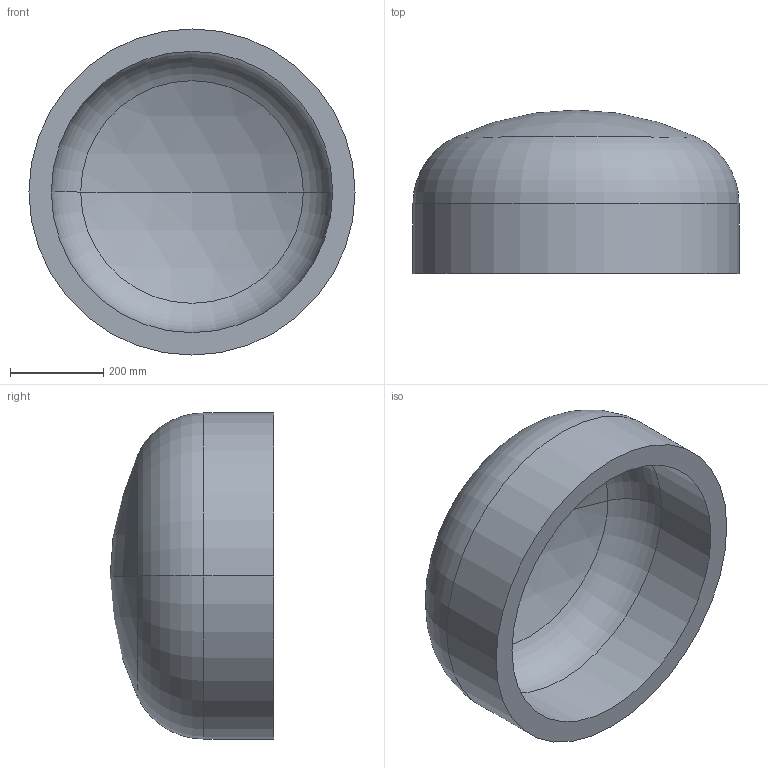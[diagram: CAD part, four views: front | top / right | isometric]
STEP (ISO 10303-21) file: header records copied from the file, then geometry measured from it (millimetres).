
FILE_DESCRIPTION (( 'STEP AP203' ), '1' );
FILE_NAME ('DIN 28013 Korbbogenform_-_Boden DIN 28013 - 700 x 150 - I - s=48.step', '2016-07-01T08:08:35', ( '' ), ( '' ), 'SwSTEP 2.0', 'SolidWorks 2013', '' );
FILE_SCHEMA (( 'CONFIG_CONTROL_DESIGN' ));
Length unit declared in the file: millimetre
Products named in the file (1): DIN 28013 Korbbogenform_-_Boden DIN 28013 - 700 x 150 - I - s=48
Bounding box: 700 x 351.02 x 700 mm (x, y, z)
Volume: 38304073.4 mm3; surface area: 1699147.6 mm2
Topology: 1 solids, 1 shells, 13 faces, 24 edges, 14 vertices
Faces by surface type: torus 4, cylinder 4, sphere 4, plane 1
Entity records: 407 total; most frequent: DIRECTION 72, CARTESIAN_POINT 52, ORIENTED_EDGE 48, AXIS2_PLACEMENT_3D 34, EDGE_CURVE 24, CIRCLE 20, VERTEX_POINT 14, EDGE_LOOP 14
